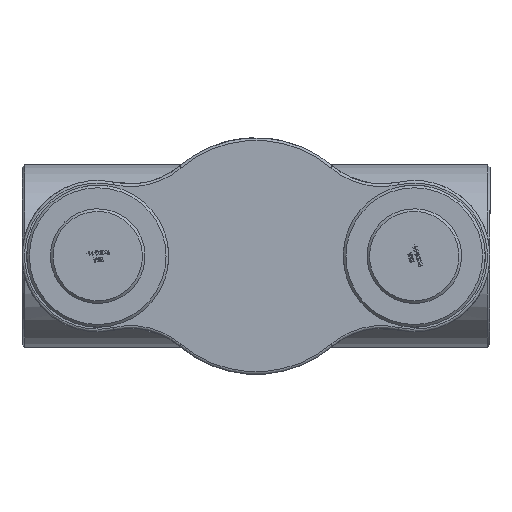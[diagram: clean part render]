
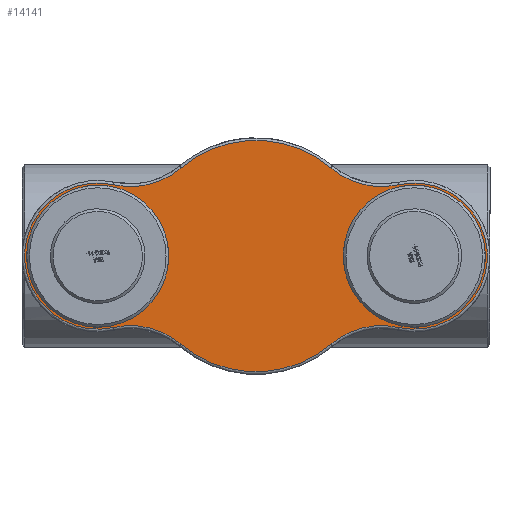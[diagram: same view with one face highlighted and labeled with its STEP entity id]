
A CAD part, front view. The second image highlights one B-rep face of the part: STEP entity #14141.
In plain terms, the highlighted planar face has unit normal (0, -1, 0) as drawn and (0, 0, -1) by its records, which use the part's own axes.
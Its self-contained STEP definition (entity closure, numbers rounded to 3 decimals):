
#3704=PLANE('',#15051);
#4190=FACE_BOUND('',#5117,.T.);
#4191=FACE_BOUND('',#5118,.T.);
#4295=FACE_OUTER_BOUND('',#5116,.T.);
#5116=EDGE_LOOP('',(#9824,#9825,#9826,#9827,#9828,#9829,#9830,#9831));
#5117=EDGE_LOOP('',(#9832));
#5118=EDGE_LOOP('',(#9833));
#6040=CIRCLE('',#15050,99.);
#6041=CIRCLE('',#15052,139.);
#6042=CIRCLE('',#15053,149.);
#6043=CIRCLE('',#15054,220.);
#6044=CIRCLE('',#15055,149.);
#6045=CIRCLE('',#15056,139.);
#6046=CIRCLE('',#15057,149.);
#6047=CIRCLE('',#15058,220.);
#6048=CIRCLE('',#15059,149.);
#6049=CIRCLE('',#15060,99.);
#6242=VERTEX_POINT('',#18915);
#6243=VERTEX_POINT('',#18918);
#6244=VERTEX_POINT('',#18919);
#6245=VERTEX_POINT('',#18921);
#6246=VERTEX_POINT('',#18923);
#6247=VERTEX_POINT('',#18925);
#6248=VERTEX_POINT('',#18927);
#6249=VERTEX_POINT('',#18929);
#6250=VERTEX_POINT('',#18931);
#6251=VERTEX_POINT('',#18934);
#7674=EDGE_CURVE('',#6242,#6242,#6040,.T.);
#7675=EDGE_CURVE('',#6243,#6244,#6041,.T.);
#7676=EDGE_CURVE('',#6245,#6243,#6042,.T.);
#7677=EDGE_CURVE('',#6246,#6245,#6043,.T.);
#7678=EDGE_CURVE('',#6247,#6246,#6044,.T.);
#7679=EDGE_CURVE('',#6248,#6247,#6045,.T.);
#7680=EDGE_CURVE('',#6249,#6248,#6046,.T.);
#7681=EDGE_CURVE('',#6250,#6249,#6047,.T.);
#7682=EDGE_CURVE('',#6244,#6250,#6048,.T.);
#7683=EDGE_CURVE('',#6251,#6251,#6049,.T.);
#9824=ORIENTED_EDGE('',*,*,#7675,.F.);
#9825=ORIENTED_EDGE('',*,*,#7676,.F.);
#9826=ORIENTED_EDGE('',*,*,#7677,.F.);
#9827=ORIENTED_EDGE('',*,*,#7678,.F.);
#9828=ORIENTED_EDGE('',*,*,#7679,.F.);
#9829=ORIENTED_EDGE('',*,*,#7680,.F.);
#9830=ORIENTED_EDGE('',*,*,#7681,.F.);
#9831=ORIENTED_EDGE('',*,*,#7682,.F.);
#9832=ORIENTED_EDGE('',*,*,#7683,.F.);
#9833=ORIENTED_EDGE('',*,*,#7674,.F.);
#14141=ADVANCED_FACE('',(#4295,#4190,#4191),#3704,.F.);
#15050=AXIS2_PLACEMENT_3D('',#18916,#15881,#15882);
#15051=AXIS2_PLACEMENT_3D('',#18917,#15883,#15884);
#15052=AXIS2_PLACEMENT_3D('',#18920,#15885,#15886);
#15053=AXIS2_PLACEMENT_3D('',#18922,#15887,#15888);
#15054=AXIS2_PLACEMENT_3D('',#18924,#15889,#15890);
#15055=AXIS2_PLACEMENT_3D('',#18926,#15891,#15892);
#15056=AXIS2_PLACEMENT_3D('',#18928,#15893,#15894);
#15057=AXIS2_PLACEMENT_3D('',#18930,#15895,#15896);
#15058=AXIS2_PLACEMENT_3D('',#18932,#15897,#15898);
#15059=AXIS2_PLACEMENT_3D('',#18933,#15899,#15900);
#15060=AXIS2_PLACEMENT_3D('',#18935,#15901,#15902);
#15881=DIRECTION('center_axis',(0.,0.,-1.));
#15882=DIRECTION('ref_axis',(1.,0.,0.));
#15883=DIRECTION('center_axis',(0.,0.,1.));
#15884=DIRECTION('ref_axis',(1.,0.,0.));
#15885=DIRECTION('center_axis',(0.,0.,1.));
#15886=DIRECTION('ref_axis',(-1.,0.,0.));
#15887=DIRECTION('center_axis',(0.,0.,-1.));
#15888=DIRECTION('ref_axis',(0.241,-0.971,0.));
#15889=DIRECTION('center_axis',(0.,0.,1.));
#15890=DIRECTION('ref_axis',(0.,1.,0.));
#15891=DIRECTION('center_axis',(0.,0.,-1.));
#15892=DIRECTION('ref_axis',(-0.241,-0.971,0.));
#15893=DIRECTION('center_axis',(0.,0.,1.));
#15894=DIRECTION('ref_axis',(1.,0.,0.));
#15895=DIRECTION('center_axis',(0.,0.,-1.));
#15896=DIRECTION('ref_axis',(-0.241,0.971,0.));
#15897=DIRECTION('center_axis',(0.,0.,1.));
#15898=DIRECTION('ref_axis',(0.,-1.,0.));
#15899=DIRECTION('center_axis',(0.,0.,-1.));
#15900=DIRECTION('ref_axis',(0.241,0.971,0.));
#15901=DIRECTION('center_axis',(0.,0.,-1.));
#15902=DIRECTION('ref_axis',(1.,0.,0.));
#18915=CARTESIAN_POINT('',(202.,0.,0.));
#18916=CARTESIAN_POINT('Origin',(301.,0.,0.));
#18917=CARTESIAN_POINT('Origin',(0.,0.,0.));
#18918=CARTESIAN_POINT('',(-271.028,135.73,0.));
#18919=CARTESIAN_POINT('',(-271.028,-135.73,0.));
#18920=CARTESIAN_POINT('Origin',(-301.,0.,0.));
#18921=CARTESIAN_POINT('',(-142.434,167.668,0.));
#18922=CARTESIAN_POINT('Origin',(-238.9,281.225,0.));
#18923=CARTESIAN_POINT('',(142.434,167.668,0.));
#18924=CARTESIAN_POINT('Origin',(0.,0.,0.));
#18925=CARTESIAN_POINT('',(271.028,135.73,0.));
#18926=CARTESIAN_POINT('Origin',(238.9,281.225,0.));
#18927=CARTESIAN_POINT('',(271.028,-135.73,0.));
#18928=CARTESIAN_POINT('Origin',(301.,0.,0.));
#18929=CARTESIAN_POINT('',(142.434,-167.668,0.));
#18930=CARTESIAN_POINT('Origin',(238.9,-281.225,0.));
#18931=CARTESIAN_POINT('',(-142.434,-167.668,0.));
#18932=CARTESIAN_POINT('Origin',(0.,0.,0.));
#18933=CARTESIAN_POINT('Origin',(-238.9,-281.225,0.));
#18934=CARTESIAN_POINT('',(-400.,0.,0.));
#18935=CARTESIAN_POINT('Origin',(-301.,0.,0.));
